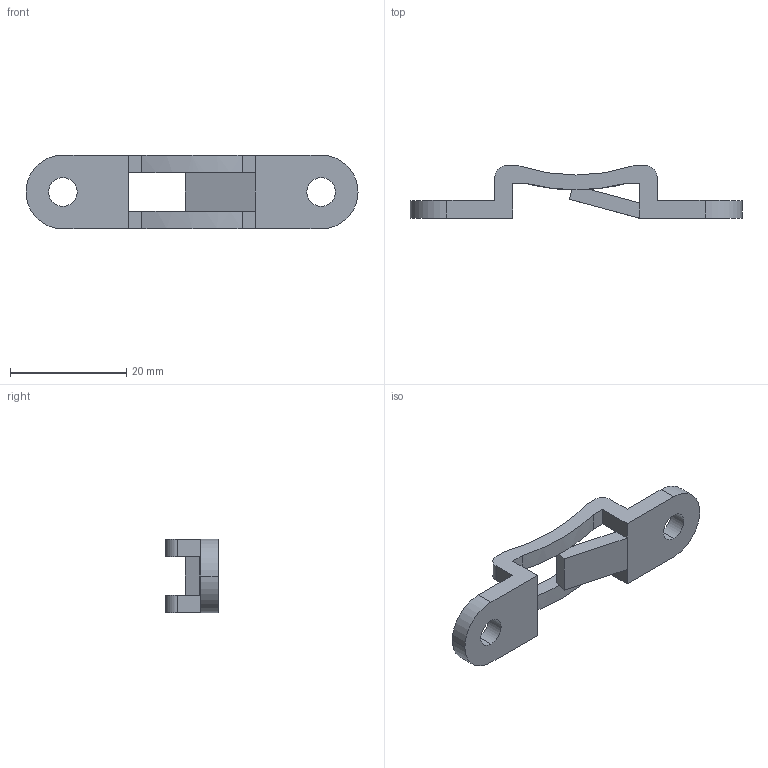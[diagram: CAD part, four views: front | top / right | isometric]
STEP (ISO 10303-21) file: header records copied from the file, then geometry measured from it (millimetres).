
FILE_DESCRIPTION (( 'STEP AP214' ), '1' );
FILE_NAME ('5074_V01_REF_PRT_FEMALE-LOCK_AR-CLIP.STEP', '2025-04-11T19:05:52', ( '' ), ( '' ), 'SwSTEP 2.0', 'SolidWorks 2025', '' );
FILE_SCHEMA (( 'AUTOMOTIVE_DESIGN' ));
Length unit declared in the file: inch
Products named in the file (1): 5074_V01_REF_PRT_FEMALE-LOCK_AR-CLIP
Bounding box: 57.15 x 9.04 x 12.7 mm (x, y, z)
Volume: 1912.7 mm3; surface area: 2136.9 mm2
Topology: 1 solids, 1 shells, 43 faces, 135 edges, 88 vertices
Faces by surface type: plane 27, cylinder 16
Entity records: 1544 total; most frequent: ORIENTED_EDGE 270, CARTESIAN_POINT 267, DIRECTION 259, EDGE_CURVE 135, LINE 99, VECTOR 99, VERTEX_POINT 88, AXIS2_PLACEMENT_3D 80
